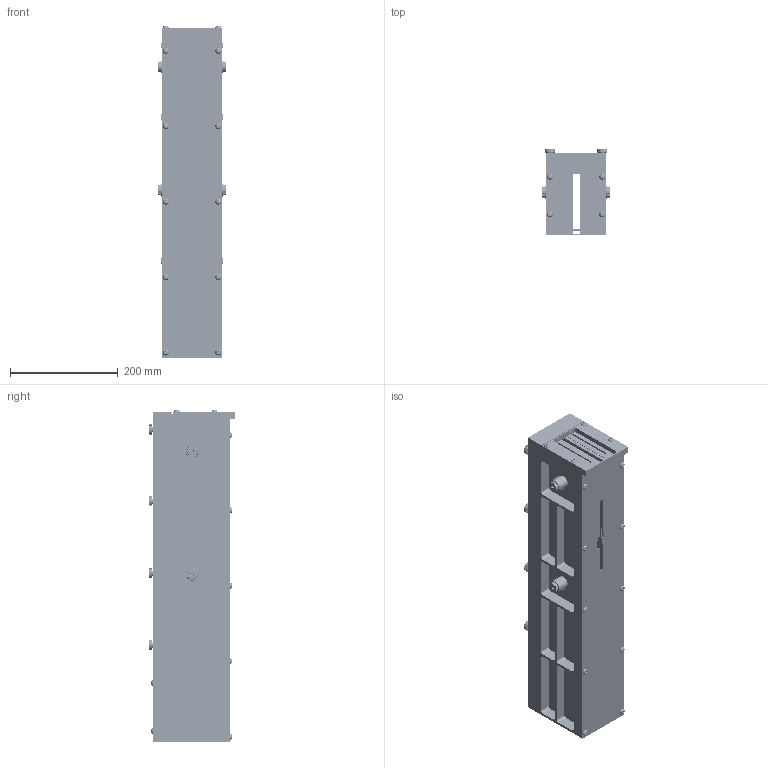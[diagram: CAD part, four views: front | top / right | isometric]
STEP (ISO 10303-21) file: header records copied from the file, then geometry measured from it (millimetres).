
FILE_DESCRIPTION((''),'2;1');
FILE_NAME('0000_RT_AIRFLOW-FIXTURE_1_ASM','2018-08-30T',('tsaipi'),('Hewlett-Packard (HP)'),'CREO PARAMETRIC BY PTC INC, 2016050','CREO PARAMETRIC BY PTC INC, 2016050','');
FILE_SCHEMA(('CONFIG_CONTROL_DESIGN'));
Length unit declared in the file: inch
Products named in the file (27): RT_FLOOR_4; RT_WALL_3_SB_3; RT_WALL_3_PORT_3; RT_BULKHEAD_DBL-WIDE_1; 3M-4508_025_2; 3M-4508_025_9; RT_BULKHEAD_DBL-WIDE_1_ASM; RT_BULKHEAD_SNGL-WIDE_1; RT_BULKHEAD_SINGLE-WIDE_1_ASM; 92949A542; 3M-4508_025_1; 3M-4508_025_7; 3M-4508_025_8; 3M-4317_1_2; 92949A537; RT_TOP_6; RT_TOP_5; 3M-4508_025_3; 98704A625; 3M-4504_025_1; 3M-4317_1_1; 3M-4508_025_5; RT_TOP_COVER_1_ASM; PCI_SIDE_BLOCK_6; 98704A635; PLASTIC-CAP_1277K29; 0000_RT_AIRFLOW-FIXTURE_1_ASM
Assembly tree (63 placements, depth 3):
  0000_RT_AIRFLOW-FIXTURE_1_ASM
    RT_FLOOR_4
    RT_WALL_3_SB_3
    RT_WALL_3_PORT_3
    RT_BULKHEAD_DBL-WIDE_1_ASM
      RT_BULKHEAD_DBL-WIDE_1
      3M-4508_025_2  x2
      3M-4508_025_9  x2
    RT_BULKHEAD_SINGLE-WIDE_1_ASM
      RT_BULKHEAD_SNGL-WIDE_1
      3M-4508_025_2  x2
      3M-4508_025_9  x2
    92949A542  x8
    3M-4508_025_1
    3M-4508_025_7
    3M-4508_025_8
    3M-4317_1_2
    92949A537  x10
    RT_TOP_6
    RT_TOP_COVER_1_ASM
      RT_TOP_5
      3M-4508_025_3
      98704A625  x8
      3M-4504_025_1
      3M-4317_1_1
      3M-4508_025_5  x2
    PCI_SIDE_BLOCK_6  x2
    98704A635  x4
    PLASTIC-CAP_1277K29  x4
Bounding box: 126.03 x 160.74 x 616.05 mm (x, y, z)
Volume: 4122279.1 mm3; surface area: 1237495.5 mm2
Topology: 60 solids, 94 shells, 8350 faces, 20440 edges, 12440 vertices
Faces by surface type: plane 4352, cylinder 3228, cone 540, bspline 162, sphere 36, torus 32
Entity records: 124751 total; most frequent: CARTESIAN_POINT 74054, DIRECTION 10374, ORIENTED_EDGE 10322, EDGE_CURVE 5219, AXIS2_PLACEMENT_3D 3710, VERTEX_POINT 3273, VECTOR 2954, LINE 2954
